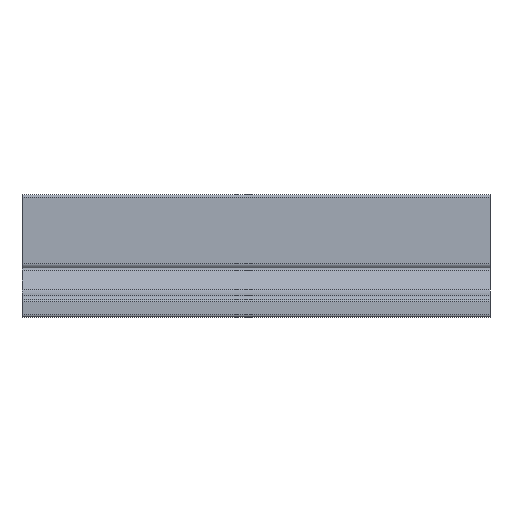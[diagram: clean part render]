
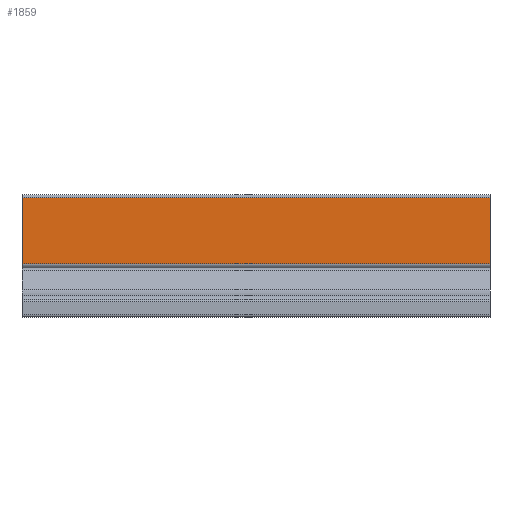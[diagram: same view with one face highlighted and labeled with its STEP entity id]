
A CAD part, top view. The second image highlights one B-rep face of the part: STEP entity #1859.
In plain terms, the highlighted planar face has unit normal (0, 0, 1).
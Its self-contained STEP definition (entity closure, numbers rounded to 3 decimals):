
#1832=AXIS2_PLACEMENT_3D('Plane Axis2P3D',#1829,#1830,#1831) ;
#1807=CARTESIAN_POINT('Vertex',(-50.,15.409,4.296)) ;
#1810=CARTESIAN_POINT('Line Origine',(-25.,15.409,4.296)) ;
#1814=CARTESIAN_POINT('Vertex',(0.,15.409,4.296)) ;
#1829=CARTESIAN_POINT('Axis2P3D Location',(0.,15.409,4.296)) ;
#1834=CARTESIAN_POINT('Line Origine',(-50.,11.871,4.296)) ;
#1838=CARTESIAN_POINT('Vertex',(-50.,8.333,4.296)) ;
#1841=CARTESIAN_POINT('Line Origine',(-25.,8.333,4.296)) ;
#1845=CARTESIAN_POINT('Vertex',(0.,8.333,4.296)) ;
#1848=CARTESIAN_POINT('Line Origine',(0.,11.871,4.296)) ;
#1811=DIRECTION('Vector Direction',(1.,0.,0.)) ;
#1830=DIRECTION('Axis2P3D Direction',(-0.,0.,-1.)) ;
#1831=DIRECTION('Axis2P3D XDirection',(0.,-1.,0.)) ;
#1835=DIRECTION('Vector Direction',(0.,-1.,0.)) ;
#1842=DIRECTION('Vector Direction',(-1.,0.,0.)) ;
#1849=DIRECTION('Vector Direction',(0.,-1.,0.)) ;
#1812=VECTOR('Line Direction',#1811,1.) ;
#1836=VECTOR('Line Direction',#1835,1.) ;
#1843=VECTOR('Line Direction',#1842,1.) ;
#1850=VECTOR('Line Direction',#1849,1.) ;
#1854=ORIENTED_EDGE('',*,*,#1840,.T.) ;
#1855=ORIENTED_EDGE('',*,*,#1847,.F.) ;
#1856=ORIENTED_EDGE('',*,*,#1852,.F.) ;
#1857=ORIENTED_EDGE('',*,*,#1816,.T.) ;
#1859=ADVANCED_FACE('PartBody',(#1858),#1833,.F.) ;
#1816=EDGE_CURVE('',#1815,#1808,#1813,.F.) ;
#1840=EDGE_CURVE('',#1808,#1839,#1837,.T.) ;
#1847=EDGE_CURVE('',#1846,#1839,#1844,.T.) ;
#1852=EDGE_CURVE('',#1815,#1846,#1851,.T.) ;
#1853=EDGE_LOOP('',(#1854,#1855,#1856,#1857)) ;
#1858=FACE_OUTER_BOUND('',#1853,.T.) ;
#1813=LINE('Line',#1810,#1812) ;
#1837=LINE('Line',#1834,#1836) ;
#1844=LINE('Line',#1841,#1843) ;
#1851=LINE('Line',#1848,#1850) ;
#1833=PLANE('',#1832) ;
#1808=VERTEX_POINT('',#1807) ;
#1815=VERTEX_POINT('',#1814) ;
#1839=VERTEX_POINT('',#1838) ;
#1846=VERTEX_POINT('',#1845) ;
